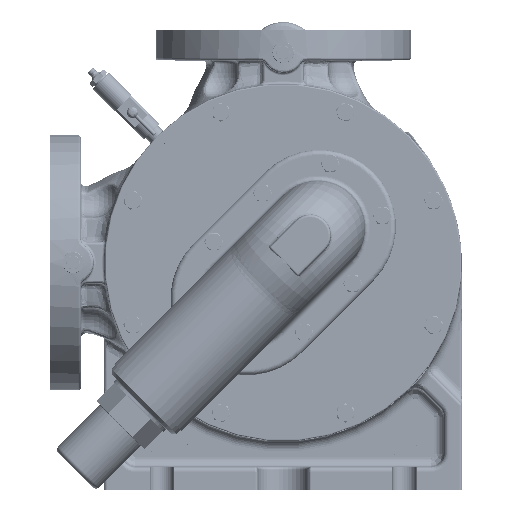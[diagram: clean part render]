
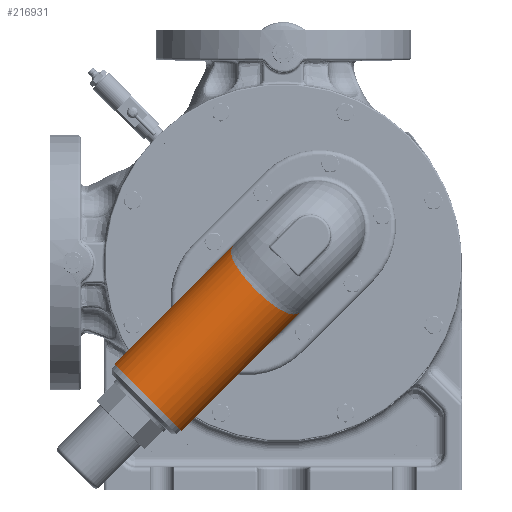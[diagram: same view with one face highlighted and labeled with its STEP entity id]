
A CAD part, top view. The second image highlights one B-rep face of the part: STEP entity #216931.
In plain terms, the highlighted cylindrical face has radius 37 mm (diameter 74 mm), a partial arc.
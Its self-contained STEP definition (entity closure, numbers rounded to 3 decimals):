
#210942=CARTESIAN_POINT('',(150.,0.,87.));
#210943=DIRECTION('',(-1.,0.,0.));
#210944=DIRECTION('',(0.,-1.,0.));
#210945=AXIS2_PLACEMENT_3D('',#210942,#210943,#210944);
#210947=CARTESIAN_POINT('',(18.062,-37.,87.));
#210948=CARTESIAN_POINT('',(18.464,-37.,
87.89));
#210949=CARTESIAN_POINT('',(19.241,-36.936,
89.672));
#210950=CARTESIAN_POINT('',(20.335,-36.646,
92.332));
#210951=CARTESIAN_POINT('',(21.365,-36.165,
94.969));
#210952=CARTESIAN_POINT('',(22.331,-35.494,
97.563));
#210953=CARTESIAN_POINT('',(23.236,-34.639,
100.096));
#210954=CARTESIAN_POINT('',(24.084,-33.605,
102.559));
#210955=CARTESIAN_POINT('',(24.874,-32.4,
104.933));
#210956=CARTESIAN_POINT('',(25.61,-31.028,
107.214));
#210957=CARTESIAN_POINT('',(26.29,-29.502,
109.382));
#210958=CARTESIAN_POINT('',(26.919,-27.825,
111.436));
#210959=CARTESIAN_POINT('',(27.493,-26.013,
113.356));
#210960=CARTESIAN_POINT('',(28.018,-24.068,
115.144));
#210961=CARTESIAN_POINT('',(28.49,-22.009,
116.781));
#210962=CARTESIAN_POINT('',(28.912,-19.839,
118.268));
#210963=CARTESIAN_POINT('',(29.283,-17.577,
119.594));
#210964=CARTESIAN_POINT('',(29.605,-15.223,
120.757));
#210965=CARTESIAN_POINT('',(29.876,-12.802,
121.748));
#210966=CARTESIAN_POINT('',(30.098,-10.314,
122.566));
#210967=CARTESIAN_POINT('',(30.27,-7.781,
123.204));
#210968=CARTESIAN_POINT('',(30.393,-5.207,
123.663));
#210969=CARTESIAN_POINT('',(30.467,-2.61,
123.939));
#210970=CARTESIAN_POINT('',(30.492,0.,
124.031));
#210971=CARTESIAN_POINT('',(30.467,2.61,
123.939));
#210972=CARTESIAN_POINT('',(30.393,5.206,
123.663));
#210973=CARTESIAN_POINT('',(30.27,7.78,
123.204));
#210974=CARTESIAN_POINT('',(30.098,10.313,
122.566));
#210975=CARTESIAN_POINT('',(29.876,12.801,
121.748));
#210976=CARTESIAN_POINT('',(29.605,15.223,
120.757));
#210977=CARTESIAN_POINT('',(29.283,17.576,
119.594));
#210978=CARTESIAN_POINT('',(28.912,19.839,
118.268));
#210979=CARTESIAN_POINT('',(28.49,22.009,
116.781));
#210980=CARTESIAN_POINT('',(28.018,24.067,
115.144));
#210981=CARTESIAN_POINT('',(27.493,26.013,
113.357));
#210982=CARTESIAN_POINT('',(26.919,27.825,
111.436));
#210983=CARTESIAN_POINT('',(26.29,29.502,
109.383));
#210984=CARTESIAN_POINT('',(25.61,31.028,
107.214));
#210985=CARTESIAN_POINT('',(24.874,32.4,
104.934));
#210986=CARTESIAN_POINT('',(24.084,33.605,
102.559));
#210987=CARTESIAN_POINT('',(23.236,34.639,
100.096));
#210988=CARTESIAN_POINT('',(22.331,35.494,
97.563));
#210989=CARTESIAN_POINT('',(21.365,36.165,
94.969));
#210990=CARTESIAN_POINT('',(20.335,36.646,
92.332));
#210991=CARTESIAN_POINT('',(19.241,36.936,
89.672));
#210992=CARTESIAN_POINT('',(18.464,37.,
87.89));
#210993=CARTESIAN_POINT('',(18.062,37.,87.));
#211010=DIRECTION('',(1.,0.,0.));
#211011=VECTOR('',#211010,131.938);
#211012=CARTESIAN_POINT('',(18.062,37.,87.));
#211013=LINE('',#211012,#211011);
#211089=DIRECTION('',(1.,0.,0.));
#211090=VECTOR('',#211089,131.938);
#211091=CARTESIAN_POINT('',(18.062,-37.,87.));
#211092=LINE('',#211091,#211090);
#214979=VERTEX_POINT('',#210947);
#214980=VERTEX_POINT('',#210993);
#215033=CARTESIAN_POINT('',(150.,-37.,87.));
#215034=CARTESIAN_POINT('',(150.,37.,87.));
#215035=VERTEX_POINT('',#215033);
#215036=VERTEX_POINT('',#215034);
#216917=CARTESIAN_POINT('',(160.65,0.,87.));
#216918=DIRECTION('',(-1.,0.,0.));
#216919=DIRECTION('',(0.,1.,0.));
#216920=AXIS2_PLACEMENT_3D('',#216917,#216918,#216919);
#216921=CYLINDRICAL_SURFACE('',#216920,37.);
#216923=ORIENTED_EDGE('',*,*,#216922,.F.);
#216925=ORIENTED_EDGE('',*,*,#216924,.F.);
#216926=ORIENTED_EDGE('',*,*,#216911,.T.);
#216928=ORIENTED_EDGE('',*,*,#216927,.T.);
#216929=EDGE_LOOP('',(#216923,#216925,#216926,#216928));
#216930=FACE_OUTER_BOUND('',#216929,.F.);
#216931=ADVANCED_FACE('',(#216930),#216921,.T.);
#210946=CIRCLE('',#210945,37.);
#210994=B_SPLINE_CURVE_WITH_KNOTS('',3,(#210947,#210948,#210949,#210950,#210951,
#210952,#210953,#210954,#210955,#210956,#210957,#210958,#210959,#210960,#210961,
#210962,#210963,#210964,#210965,#210966,#210967,#210968,#210969,#210970,#210971,
#210972,#210973,#210974,#210975,#210976,#210977,#210978,#210979,#210980,#210981,
#210982,#210983,#210984,#210985,#210986,#210987,#210988,#210989,#210990,#210991,
#210992,#210993),.UNSPECIFIED.,.F.,.F.,(4,1,1,1,1,1,1,1,1,1,1,1,1,1,1,1,1,1,1,1,
1,1,1,1,1,1,1,1,1,1,1,1,1,1,1,1,1,1,1,1,1,1,1,1,4),(0.,0.023,
0.045,0.068,0.091,0.114,
0.136,0.159,0.182,0.205,
0.227,0.25,0.273,0.295,0.318,
0.341,0.364,0.386,0.409,
0.432,0.455,0.477,0.5,0.523,
0.545,0.568,0.591,0.614,
0.636,0.659,0.682,0.705,
0.727,0.75,0.773,0.795,0.818,
0.841,0.864,0.886,0.909,
0.932,0.955,0.977,1.),.UNSPECIFIED.);
#216911=EDGE_CURVE('',#214979,#214980,#210994,.T.);
#216922=EDGE_CURVE('',#215035,#215036,#210946,.T.);
#216924=EDGE_CURVE('',#214979,#215035,#211092,.T.);
#216927=EDGE_CURVE('',#214980,#215036,#211013,.T.);
